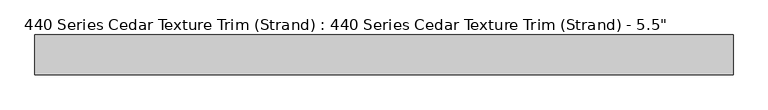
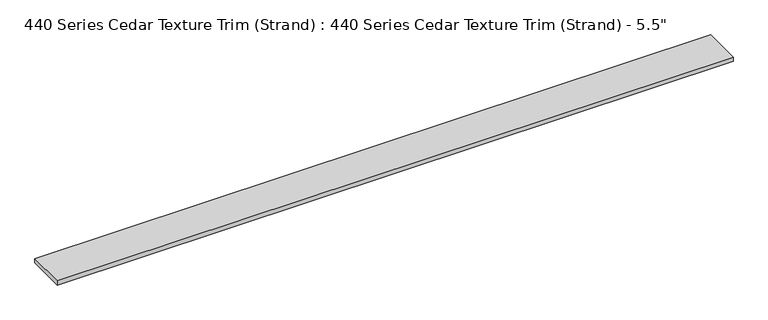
"""IFC4 building model written with IfcOpenShell, lengths in millimetres: proxy geometry."""

import ifcopenshell
import ifcopenshell.guid

model = None  # the IFC model being written
_history = None  # IfcOwnerHistory: only IFC2X3 demands one
_inside = {}  # id of a spatial element -> (the spatial element, [elements in it])
_under = {}  # id of a project, library or spatial element -> (it, [spatial elements below it])
_declared = {}  # id of a project -> (the project, [libraries it declares])
_typed = {}  # id of a type object -> (the type object, [elements of that type])
_made_of = {}  # id of a material, layer set ... -> (it, [elements and type objects made of it])


def new_model(schema):
    """Start an empty IFC model of exactly this schema.

    Asked for "IFC4X3", IfcOpenShell would pick the latest addendum, in which some entities
    have other attributes; the version numbers below select the first issue.
    IFC2X3 requires an IfcOwnerHistory on every rooted entity: one is made here for all.
    """
    global model, _history
    if schema == "IFC4X3":
        model = ifcopenshell.file(schema_version=(4, 3, 0, 0))
    else:
        model = ifcopenshell.file(schema=schema)
    _inside.clear()
    _under.clear()
    _declared.clear()
    _typed.clear()
    _made_of.clear()
    _history = None
    if model.schema == "IFC2X3":
        org = make("IfcOrganization", Name="unknown")
        user = make(
            "IfcPersonAndOrganization",
            ThePerson=make("IfcPerson", FamilyName="unknown"),
            TheOrganization=org,
        )
        app = make(
            "IfcApplication",
            ApplicationDeveloper=org,
            Version="unknown",
            ApplicationFullName="unknown",
            ApplicationIdentifier="unknown",
        )
        _history = make(
            "IfcOwnerHistory",
            OwningUser=user,
            OwningApplication=app,
            ChangeAction="ADDED",
            CreationDate=0,
        )
    return model


def make(cls, **values):
    """One entity of the class cls with the attributes given. An attribute that is None is left unset."""
    return model.create_entity(
        cls, **{name: value for name, value in values.items() if value is not None}
    )


def rooted(cls, **values):
    """An entity with a GlobalId (a new one), such as an element, a storey or a relation."""
    return make(cls, GlobalId=ifcopenshell.guid.new(), OwnerHistory=_history, **values)


def si_unit(unit_type, name, prefix=None):
    """IfcSIUnit, for example si_unit("LENGTHUNIT", "METRE", prefix="MILLI")."""
    return make("IfcSIUnit", UnitType=unit_type, Prefix=prefix, Name=name)


def assignment(units):
    """IfcUnitAssignment: the units of a project."""
    return None if units is None else make("IfcUnitAssignment", Units=units)


def point(xyz):
    """IfcCartesianPoint."""
    return None if xyz is None else make("IfcCartesianPoint", Coordinates=xyz)


def direction(xyz):
    """IfcDirection."""
    return None if xyz is None else make("IfcDirection", DirectionRatios=xyz)


def frame(location, z_axis=None, x_axis=None):
    """IfcAxis2Placement3D, a coordinate frame: its origin and axes. An axis left out is left unset."""
    return make(
        "IfcAxis2Placement3D",
        Location=point(location),
        Axis=direction(z_axis),
        RefDirection=direction(x_axis),
    )


def origin():
    """The frame at (0, 0, 0) with its axes left unset."""
    return frame((0.0, 0.0, 0.0))


def origin_with_axes():
    """The frame at (0, 0, 0) with the z axis (0, 0, 1) and the x axis (1, 0, 0) written out."""
    return frame((0.0, 0.0, 0.0), z_axis=(0.0, 0.0, 1.0), x_axis=(1.0, 0.0, 0.0))


def place(relative_to, where):
    """IfcLocalPlacement: puts the frame where relative to a parent placement (None: the world)."""
    return make(
        "IfcLocalPlacement", PlacementRelTo=relative_to, RelativePlacement=where
    )


def context(
    kind, dimensions, precision=None, world=None, true_north=None, identifier=None
):
    """IfcGeometricRepresentationContext, for example the 3D "Model" context."""
    return make(
        "IfcGeometricRepresentationContext",
        ContextIdentifier=identifier,
        ContextType=kind,
        CoordinateSpaceDimension=dimensions,
        Precision=precision,
        WorldCoordinateSystem=world,
        TrueNorth=true_north,
    )


def project(units=None, contexts=None):
    """IfcProject with its units and contexts."""
    return rooted(
        "IfcProject",
        Name="project",
        RepresentationContexts=contexts,
        UnitsInContext=assignment(units),
    )


def spatial(cls, under=None, at=None, **own):
    """A site, building, storey or space (cls), placed at a placement, below another one or the project."""
    s = rooted(cls, ObjectPlacement=at, **own)
    if under is not None:
        _under.setdefault(under.id(), (under, []))[1].append(s)
    return s


def polyline(points):
    """IfcPolyline through the points."""
    return make("IfcPolyline", Points=[point(p) for p in points])


def outline(outer, holes=None, kind="AREA"):
    """IfcArbitraryClosedProfileDef: a profile drawn as a closed curve; with holes, ...WithVoids."""
    if holes is None:
        return make("IfcArbitraryClosedProfileDef", ProfileType=kind, OuterCurve=outer)
    return make(
        "IfcArbitraryProfileDefWithVoids",
        ProfileType=kind,
        OuterCurve=outer,
        InnerCurves=holes,
    )


def extrude(swept, where, along, depth):
    """IfcExtrudedAreaSolid: the profile swept, set in the frame where, extruded along a direction by depth."""
    return make(
        "IfcExtrudedAreaSolid",
        SweptArea=swept,
        Position=where,
        ExtrudedDirection=direction(along),
        Depth=depth,
    )


def shape(context_of_items, identifier, shape_type, items):
    """IfcShapeRepresentation: the items that make up one representation, for example the "Body"."""
    return make(
        "IfcShapeRepresentation",
        ContextOfItems=context_of_items,
        RepresentationIdentifier=identifier,
        RepresentationType=shape_type,
        Items=items,
    )


def source(mapping_origin, context_of_items, identifier, shape_type, items):
    """IfcRepresentationMap: a shape defined once, which mapped items show again and again."""
    return make(
        "IfcRepresentationMap",
        MappingOrigin=mapping_origin,
        MappedRepresentation=shape(context_of_items, identifier, shape_type, items),
    )


def transform(
    local_origin,
    x_axis=None,
    y_axis=None,
    z_axis=None,
    scale=None,
    scale2=None,
    scale3=None,
    uniform=True,
):
    """IfcCartesianTransformationOperator3D, or its non-uniform kind. x_axis, y_axis, z_axis: its Axis1, 2, 3."""
    if uniform:
        return make(
            "IfcCartesianTransformationOperator3D",
            Axis1=direction(x_axis),
            Axis2=direction(y_axis),
            LocalOrigin=point(local_origin),
            Scale=scale,
            Axis3=direction(z_axis),
        )
    return make(
        "IfcCartesianTransformationOperator3DnonUniform",
        Axis1=direction(x_axis),
        Axis2=direction(y_axis),
        LocalOrigin=point(local_origin),
        Scale=scale,
        Axis3=direction(z_axis),
        Scale2=scale2,
        Scale3=scale3,
    )


def mapped(mapping_source, mapping_target):
    """IfcMappedItem: shows the shape of a source again, moved by a transform."""
    return make(
        "IfcMappedItem", MappingSource=mapping_source, MappingTarget=mapping_target
    )


def made_of(thing, what):
    """Note that an element or type object is made of a material, layer set ...; save() writes the relation."""
    if what is not None:
        _made_of.setdefault(what.id(), (what, []))[1].append(thing)
    return thing


def element(
    cls,
    number,
    at=None,
    inside=None,
    cuts=None,
    type_object=None,
    material=None,
    context=None,
    identifier="Body",
    shape_type=None,
    held_by="IfcProductDefinitionShape",
    body=None,
    shapes=None,
    **own,
):
    """One element of the class cls, such as IfcWall. Its Tag is "e" and its number.

    at: its placement. inside: the storey or other place that contains it. cuts: it is an
    opening in that element (IfcRelVoidsElement). A single representation is given by context,
    identifier, shape_type and body (its items); several are given by shapes. held_by: the class
    of the entity that holds the representations. save() writes the other relations.
    """
    e = rooted(cls, Tag="e%d" % number, ObjectPlacement=at, **own)
    if body is not None:
        shapes = [shape(context, identifier, shape_type, body)]
    if shapes is not None:
        e.Representation = make(held_by, Representations=shapes)
    if inside is not None:
        _inside.setdefault(inside.id(), (inside, []))[1].append(e)
    if cuts is not None:
        rooted(
            "IfcRelVoidsElement", RelatingBuildingElement=cuts, RelatedOpeningElement=e
        )
    if type_object is not None:
        _typed.setdefault(type_object.id(), (type_object, []))[1].append(e)
    return made_of(e, material)


def aggregate(whole, parts):
    """IfcRelAggregates: a whole, such as a stair, and the parts it consists of."""
    return rooted("IfcRelAggregates", RelatingObject=whole, RelatedObjects=parts)


def save(model, path):
    """Write the relations noted so far, then the file.

    IfcRelAggregates (storeys below a building ...), IfcRelContainedInSpatialStructure (elements
    in a storey), IfcRelDefinesByType, IfcRelAssociatesMaterial and IfcRelDeclares: one each for
    every whole, place, type object, material and project.
    """
    for whole, parts in _under.values():
        aggregate(whole, parts)
    for where, things in _inside.values():
        rooted(
            "IfcRelContainedInSpatialStructure",
            RelatedElements=things,
            RelatingStructure=where,
        )
    for kind, things in _typed.values():
        rooted("IfcRelDefinesByType", RelatedObjects=things, RelatingType=kind)
    for what, things in _made_of.values():
        rooted("IfcRelAssociatesMaterial", RelatedObjects=things, RelatingMaterial=what)
    for by, libraries in _declared.values():
        rooted("IfcRelDeclares", RelatingContext=by, RelatedDefinitions=libraries)
    model.write(path)


def proxy_c9f79f1e(model_context):
    return source(origin(), model_context, "Body", "SweptSolid", [
        extrude(outline(polyline([(2438.4, 0.0), (0.0, 0.0), (0.0, 139.7), (2438.4, 139.7), (2438.4, 0.0)])), origin_with_axes(), (0.0, 0.0, 1.0), 15.875),
    ])


if __name__ == "__main__":
    model = new_model("IFC4")
    model_context = context("Model", 3, world=origin())
    ifc_project = project(units=[si_unit("LENGTHUNIT", "METRE", prefix="MILLI")], contexts=[model_context])
    site = spatial("IfcSite", under=ifc_project)
    building = spatial("IfcBuilding", under=site)
    placement = place(None, origin())
    proxy_shape = proxy_c9f79f1e(model_context)
    element("IfcBuildingElementProxy", 1, Name="440 Series Cedar Texture Trim (Strand) : 440 Series Cedar Texture Trim (Strand) - 5.5\"", ObjectType="440 Series Cedar Texture Trim (Strand) : 440 Series Cedar Texture Trim (Strand) - 5.5\"", at=placement, inside=building, context=model_context, shape_type="MappedRepresentation", body=[
        mapped(proxy_shape, transform((0.0, 0.0, 0.0), x_axis=(1.0, 0.0, 0.0), y_axis=(0.0, 1.0, 0.0), z_axis=(0.0, 0.0, 1.0))),
    ])
    save(model, "model.ifc")
